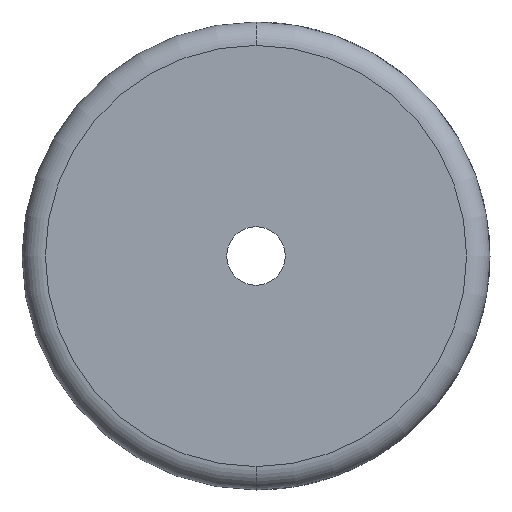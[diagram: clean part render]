
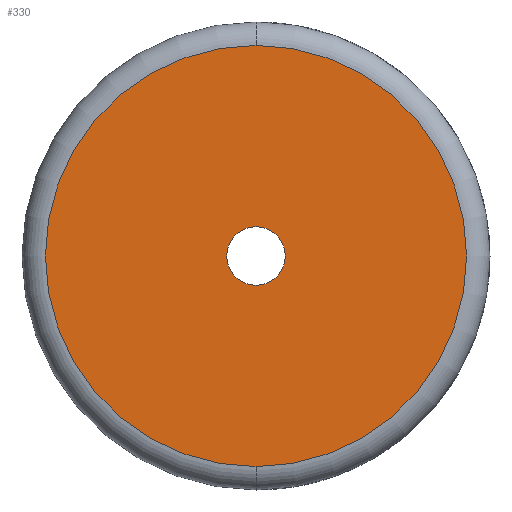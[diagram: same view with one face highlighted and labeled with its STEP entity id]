
A CAD part, front view. The second image highlights one B-rep face of the part: STEP entity #330.
In plain terms, the highlighted planar face has unit normal (0, -1, 0).
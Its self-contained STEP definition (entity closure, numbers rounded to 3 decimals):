
#70 = EDGE_LOOP ( 'NONE', ( #661, #749 ) ) ;
#83 = ORIENTED_EDGE ( 'NONE', *, *, #561, .T. ) ;
#86 = DIRECTION ( 'NONE',  ( 0., 1., 0. ) ) ;
#92 = ORIENTED_EDGE ( 'NONE', *, *, #146, .T. ) ;
#101 = AXIS2_PLACEMENT_3D ( 'NONE', #266, #157, #638 ) ;
#105 = AXIS2_PLACEMENT_3D ( 'NONE', #406, #564, #359 ) ;
#146 = EDGE_CURVE ( 'NONE', #176, #342, #411, .T. ) ;
#157 = DIRECTION ( 'NONE',  ( 0., -1., 0. ) ) ;
#176 = VERTEX_POINT ( 'NONE', #534 ) ;
#183 = DIRECTION ( 'NONE',  ( 0., 1., 0. ) ) ;
#186 = CARTESIAN_POINT ( 'NONE',  ( 20., -1., -38. ) ) ;
#203 = AXIS2_PLACEMENT_3D ( 'NONE', #377, #753, #318 ) ;
#254 = CARTESIAN_POINT ( 'NONE',  ( 20., -1., -17.5 ) ) ;
#266 = CARTESIAN_POINT ( 'NONE',  ( 20., -1., -20. ) ) ;
#298 = DIRECTION ( 'NONE',  ( 0., 0., 1. ) ) ;
#318 = DIRECTION ( 'NONE',  ( 0., 0., 1. ) ) ;
#324 = CIRCLE ( 'NONE', #203, 18. ) ;
#330 = ADVANCED_FACE ( 'NONE', ( #637, #575 ), #465, .F. ) ;
#342 = VERTEX_POINT ( 'NONE', #254 ) ;
#346 = CIRCLE ( 'NONE', #101, 18. ) ;
#354 = DIRECTION ( 'NONE',  ( 0., 0., 1. ) ) ;
#359 = DIRECTION ( 'NONE',  ( 0., 0., 1. ) ) ;
#377 = CARTESIAN_POINT ( 'NONE',  ( 20., -1., -20. ) ) ;
#406 = CARTESIAN_POINT ( 'NONE',  ( 0., -1., 0. ) ) ;
#411 = CIRCLE ( 'NONE', #445, 2.5 ) ;
#422 = CARTESIAN_POINT ( 'NONE',  ( 20., -1., -20. ) ) ;
#445 = AXIS2_PLACEMENT_3D ( 'NONE', #632, #86, #298 ) ;
#465 = PLANE ( 'NONE',  #105 ) ;
#491 = AXIS2_PLACEMENT_3D ( 'NONE', #422, #183, #354 ) ;
#505 = VERTEX_POINT ( 'NONE', #733 ) ;
#534 = CARTESIAN_POINT ( 'NONE',  ( 20., -1., -22.5 ) ) ;
#561 = EDGE_CURVE ( 'NONE', #342, #176, #709, .T. ) ;
#564 = DIRECTION ( 'NONE',  ( 0., 1., 0. ) ) ;
#573 = VERTEX_POINT ( 'NONE', #186 ) ;
#575 = FACE_BOUND ( 'NONE', #649, .T. ) ;
#611 = EDGE_CURVE ( 'NONE', #573, #505, #324, .T. ) ;
#632 = CARTESIAN_POINT ( 'NONE',  ( 20., -1., -20. ) ) ;
#637 = FACE_OUTER_BOUND ( 'NONE', #70, .T. ) ;
#638 = DIRECTION ( 'NONE',  ( 0., 0., 1. ) ) ;
#649 = EDGE_LOOP ( 'NONE', ( #92, #83 ) ) ;
#661 = ORIENTED_EDGE ( 'NONE', *, *, #668, .T. ) ;
#668 = EDGE_CURVE ( 'NONE', #505, #573, #346, .T. ) ;
#709 = CIRCLE ( 'NONE', #491, 2.5 ) ;
#733 = CARTESIAN_POINT ( 'NONE',  ( 20., -1., -2. ) ) ;
#749 = ORIENTED_EDGE ( 'NONE', *, *, #611, .T. ) ;
#753 = DIRECTION ( 'NONE',  ( 0., -1., 0. ) ) ;
